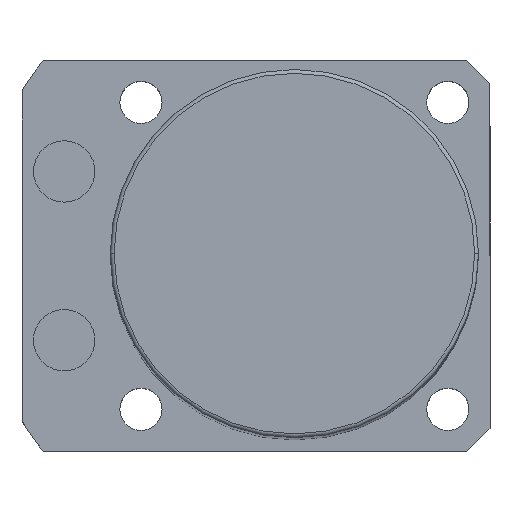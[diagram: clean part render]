
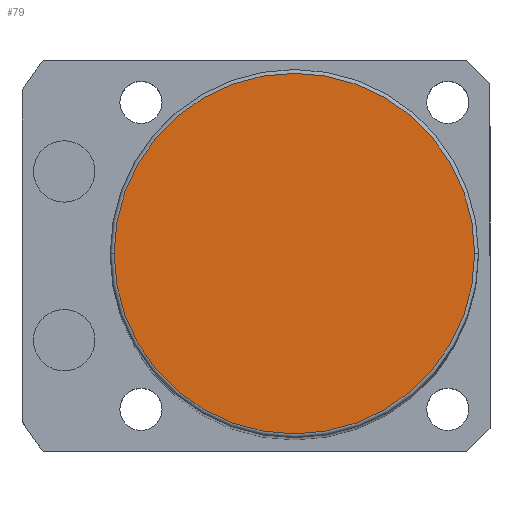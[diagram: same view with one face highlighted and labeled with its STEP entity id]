
A CAD part, top view. The second image highlights one B-rep face of the part: STEP entity #79.
In plain terms, the highlighted planar face has unit normal (0, 0, 1).
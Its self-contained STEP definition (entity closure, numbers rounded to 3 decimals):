
#79 = ADVANCED_FACE ( 'NONE', ( #515 ), #782, .T. ) ;
#83 = CARTESIAN_POINT ( 'NONE',  ( -23.5, 0., 181. ) ) ;
#105 = AXIS2_PLACEMENT_3D ( 'NONE', #1911, #2102, #947 ) ;
#280 = CIRCLE ( 'NONE', #105, 23.5 ) ;
#360 = CARTESIAN_POINT ( 'NONE',  ( 0., 0., 181. ) ) ;
#382 = DIRECTION ( 'NONE',  ( 1., 0., 0. ) ) ;
#483 = DIRECTION ( 'NONE',  ( 0., 0., 1. ) ) ;
#497 = ORIENTED_EDGE ( 'NONE', *, *, #1529, .T. ) ;
#515 = FACE_OUTER_BOUND ( 'NONE', #712, .T. ) ;
#712 = EDGE_LOOP ( 'NONE', ( #497, #1118 ) ) ;
#782 = PLANE ( 'NONE',  #807 ) ;
#807 = AXIS2_PLACEMENT_3D ( 'NONE', #360, #1159, #382 ) ;
#947 = DIRECTION ( 'NONE',  ( 1., 0., 0. ) ) ;
#1104 = CIRCLE ( 'NONE', #2407, 23.5 ) ;
#1118 = ORIENTED_EDGE ( 'NONE', *, *, #2041, .T. ) ;
#1159 = DIRECTION ( 'NONE',  ( 0., 0., 1. ) ) ;
#1529 = EDGE_CURVE ( 'NONE', #2308, #2292, #1104, .T. ) ;
#1911 = CARTESIAN_POINT ( 'NONE',  ( 0., 0., 181. ) ) ;
#2041 = EDGE_CURVE ( 'NONE', #2292, #2308, #280, .T. ) ;
#2102 = DIRECTION ( 'NONE',  ( 0., 0., 1. ) ) ;
#2233 = CARTESIAN_POINT ( 'NONE',  ( 0., 0., 181. ) ) ;
#2292 = VERTEX_POINT ( 'NONE', #83 ) ;
#2308 = VERTEX_POINT ( 'NONE', #2419 ) ;
#2407 = AXIS2_PLACEMENT_3D ( 'NONE', #2233, #483, #2485 ) ;
#2419 = CARTESIAN_POINT ( 'NONE',  ( 23.5, 0., 181. ) ) ;
#2485 = DIRECTION ( 'NONE',  ( 1., 0., 0. ) ) ;
